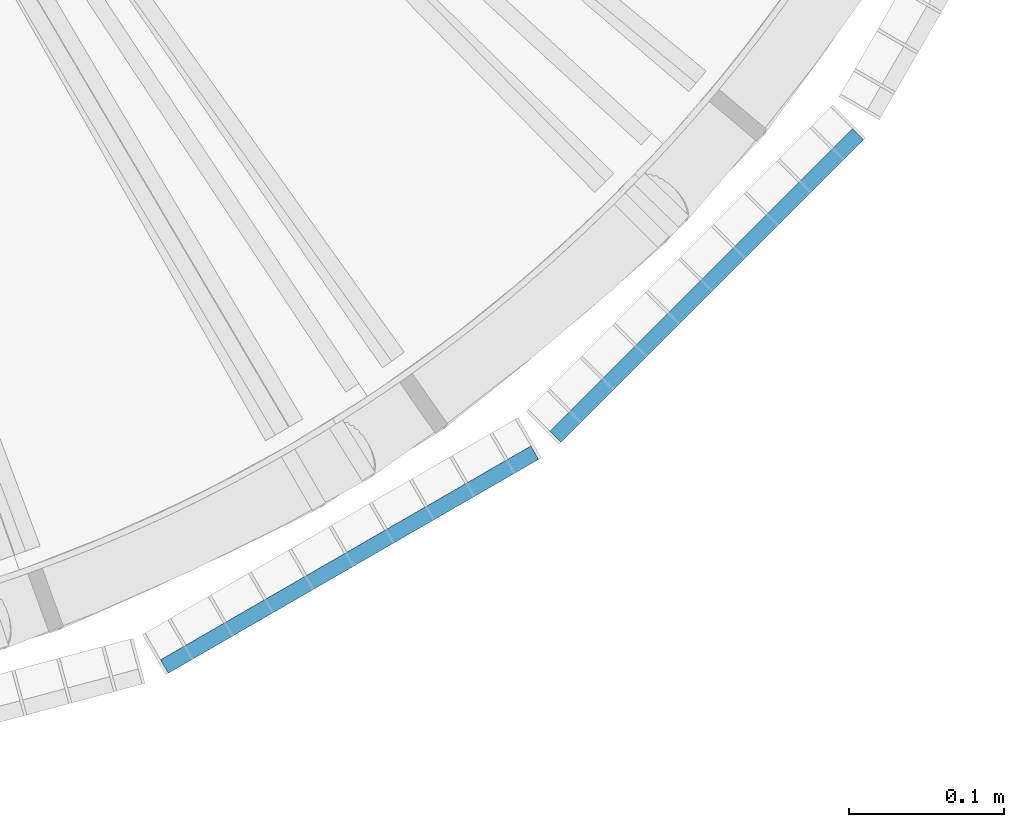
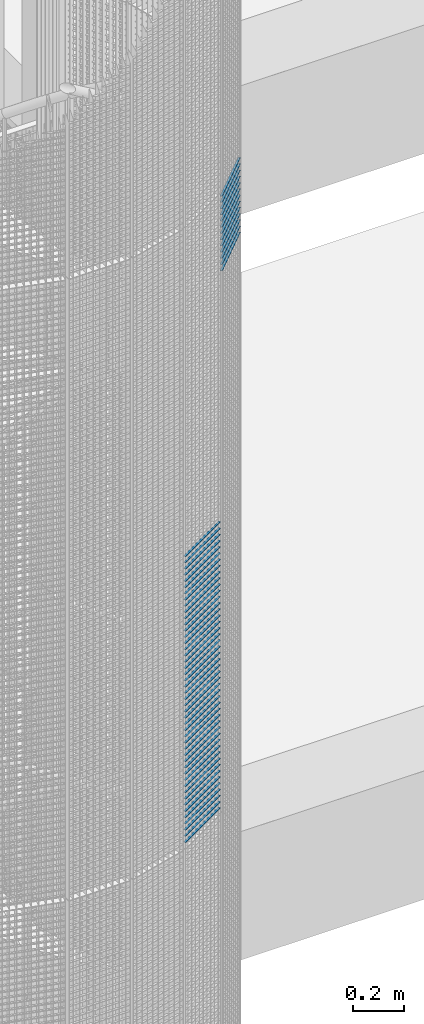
# One storey, part 392 of 1148: 60 beams, 2 elements without a shape of their own.
"""IFC2X3 building model written with IfcOpenShell, lengths in millimetres."""

from ifc_helpers import new_model, si_unit, frame, origin_with_axes, origin_2d_with_axis, place, context, subcontext, project, spatial, rectangle, extrude, material, type_object, element, aggregate, save


model = new_model("IFC2X3")

# Units and contexts
model_context = context("Model", 3, precision=1e-05, world=origin_with_axes())
body_context = subcontext(model_context, "Body", "Model", "MODEL_VIEW")
ifc_project = project(units=[si_unit("LENGTHUNIT", "METRE", prefix="MILLI"), si_unit("AREAUNIT", "SQUARE_METRE"), si_unit("VOLUMEUNIT", "CUBIC_METRE"), si_unit("MASSUNIT", "GRAM", prefix="KILO"), si_unit("TIMEUNIT", "SECOND"), si_unit("PLANEANGLEUNIT", "RADIAN"), si_unit("SOLIDANGLEUNIT", "STERADIAN"), si_unit("THERMODYNAMICTEMPERATUREUNIT", "DEGREE_CELSIUS"), si_unit("LUMINOUSINTENSITYUNIT", "LUMEN")], contexts=[model_context])

# Site, building, storey
site_placement = place(None, origin_with_axes())
site = spatial("IfcSite", under=ifc_project, at=site_placement, Name="Undefined", CompositionType="ELEMENT")
building_placement = place(site_placement, origin_with_axes())
building = spatial("IfcBuilding", under=site, at=building_placement, Name="Undefined", CompositionType="ELEMENT")
storey_placement = place(building_placement, origin_with_axes())
storey = spatial("IfcBuildingStorey", under=building, at=storey_placement, Name="Undefined", CompositionType="ELEMENT", Elevation=0.0)

# Assembly, beams
assembly_1_placement = place(storey_placement, origin_with_axes())
assembly_1 = element("IfcElementAssembly", 1, at=assembly_1_placement, inside=storey, Name="BORDURE", AssemblyPlace="NOTDEFINED", PredefinedType="NOTDEFINED")
ifc_material = material(Name="STEEL/S235JR")
beam_type = type_object("IfcBeamType", Name="PL2*10", PredefinedType="NOTDEFINED")
beam_1_placement = place(assembly_1_placement, frame((22276.2480445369, -895.303964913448, 10410.0), z_axis=(0.499999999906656, -0.866025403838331, 0.0), x_axis=(-0.866025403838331, -0.499999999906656, 0.0)))
beam_1 = element("IfcBeam", 2, at=beam_1_placement, type_object=beam_type, material=ifc_material, Name="ENTRETOISE", context=body_context, shape_type="SweptSolid", body=[
    extrude(rectangle(XDim=2.0, YDim=10.0, at=origin_2d_with_axis()), frame((275.999999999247, 9.09494701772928e-13, 1.53210777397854e-14), z_axis=(-1.0, 0.0, 0.0), x_axis=(0.0, -1.0, 0.0)), (0.0, 0.0, 1.0), 276.0),
])
beam_2_placement = place(assembly_1_placement, frame((22276.2480445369, -895.303964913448, 10380.0), z_axis=(0.499999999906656, -0.866025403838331, 0.0), x_axis=(-0.866025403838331, -0.499999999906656, 0.0)))
beam_2 = element("IfcBeam", 3, at=beam_2_placement, type_object=beam_type, material=ifc_material, Name="ENTRETOISE", context=body_context, shape_type="SweptSolid", body=[
    extrude(rectangle(XDim=2.0, YDim=10.0, at=origin_2d_with_axis()), frame((275.999999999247, 9.09494701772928e-13, 1.53210777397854e-14), z_axis=(-1.0, 0.0, 0.0), x_axis=(0.0, -1.0, 0.0)), (0.0, 0.0, 1.0), 276.0),
])
beam_3_placement = place(assembly_1_placement, frame((22276.2480445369, -895.303964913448, 10350.0), z_axis=(0.499999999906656, -0.866025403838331, 0.0), x_axis=(-0.866025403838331, -0.499999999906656, 0.0)))
beam_3 = element("IfcBeam", 4, at=beam_3_placement, type_object=beam_type, material=ifc_material, Name="ENTRETOISE", context=body_context, shape_type="SweptSolid", body=[
    extrude(rectangle(XDim=2.0, YDim=10.0, at=origin_2d_with_axis()), frame((275.999999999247, 9.09494701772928e-13, 1.53210777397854e-14), z_axis=(-1.0, 0.0, 0.0), x_axis=(0.0, -1.0, 0.0)), (0.0, 0.0, 1.0), 276.0),
])
beam_4_placement = place(assembly_1_placement, frame((22276.2480445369, -895.303964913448, 10320.0), z_axis=(0.499999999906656, -0.866025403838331, 0.0), x_axis=(-0.866025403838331, -0.499999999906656, 0.0)))
beam_4 = element("IfcBeam", 5, at=beam_4_placement, type_object=beam_type, material=ifc_material, Name="ENTRETOISE", context=body_context, shape_type="SweptSolid", body=[
    extrude(rectangle(XDim=2.0, YDim=10.0, at=origin_2d_with_axis()), frame((275.999999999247, 9.09494701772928e-13, 1.53210777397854e-14), z_axis=(-1.0, 0.0, 0.0), x_axis=(0.0, -1.0, 0.0)), (0.0, 0.0, 1.0), 276.0),
])
beam_5_placement = place(assembly_1_placement, frame((22276.2480445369, -895.303964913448, 10290.0), z_axis=(0.499999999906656, -0.866025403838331, 0.0), x_axis=(-0.866025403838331, -0.499999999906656, 0.0)))
beam_5 = element("IfcBeam", 6, at=beam_5_placement, type_object=beam_type, material=ifc_material, Name="ENTRETOISE", context=body_context, shape_type="SweptSolid", body=[
    extrude(rectangle(XDim=2.0, YDim=10.0, at=origin_2d_with_axis()), frame((275.999999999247, 9.09494701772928e-13, 1.53210777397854e-14), z_axis=(-1.0, 0.0, 0.0), x_axis=(0.0, -1.0, 0.0)), (0.0, 0.0, 1.0), 276.0),
])
beam_6_placement = place(assembly_1_placement, frame((22276.2480445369, -895.303964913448, 10260.0), z_axis=(0.499999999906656, -0.866025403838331, 0.0), x_axis=(-0.866025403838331, -0.499999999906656, 0.0)))
beam_6 = element("IfcBeam", 7, at=beam_6_placement, type_object=beam_type, material=ifc_material, Name="ENTRETOISE", context=body_context, shape_type="SweptSolid", body=[
    extrude(rectangle(XDim=2.0, YDim=10.0, at=origin_2d_with_axis()), frame((275.999999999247, 9.09494701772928e-13, 1.53210777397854e-14), z_axis=(-1.0, 0.0, 0.0), x_axis=(0.0, -1.0, 0.0)), (0.0, 0.0, 1.0), 276.0),
])
beam_7_placement = place(assembly_1_placement, frame((22276.2480445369, -895.303964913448, 10230.0), z_axis=(0.499999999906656, -0.866025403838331, 0.0), x_axis=(-0.866025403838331, -0.499999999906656, 0.0)))
beam_7 = element("IfcBeam", 8, at=beam_7_placement, type_object=beam_type, material=ifc_material, Name="ENTRETOISE", context=body_context, shape_type="SweptSolid", body=[
    extrude(rectangle(XDim=2.0, YDim=10.0, at=origin_2d_with_axis()), frame((275.999999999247, 9.09494701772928e-13, 1.53210777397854e-14), z_axis=(-1.0, 0.0, 0.0), x_axis=(0.0, -1.0, 0.0)), (0.0, 0.0, 1.0), 276.0),
])
beam_8_placement = place(assembly_1_placement, frame((22276.2480445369, -895.303964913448, 10200.0), z_axis=(0.499999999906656, -0.866025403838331, 0.0), x_axis=(-0.866025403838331, -0.499999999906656, 0.0)))
beam_8 = element("IfcBeam", 9, at=beam_8_placement, type_object=beam_type, material=ifc_material, Name="ENTRETOISE", context=body_context, shape_type="SweptSolid", body=[
    extrude(rectangle(XDim=2.0, YDim=10.0, at=origin_2d_with_axis()), frame((275.999999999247, 9.09494701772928e-13, 1.53210777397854e-14), z_axis=(-1.0, 0.0, 0.0), x_axis=(0.0, -1.0, 0.0)), (0.0, 0.0, 1.0), 276.0),
])
beam_9_placement = place(assembly_1_placement, frame((22276.2480445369, -895.303964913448, 10170.0), z_axis=(0.499999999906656, -0.866025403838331, 0.0), x_axis=(-0.866025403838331, -0.499999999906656, 0.0)))
beam_9 = element("IfcBeam", 10, at=beam_9_placement, type_object=beam_type, material=ifc_material, Name="ENTRETOISE", context=body_context, shape_type="SweptSolid", body=[
    extrude(rectangle(XDim=2.0, YDim=10.0, at=origin_2d_with_axis()), frame((275.999999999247, 9.09494701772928e-13, 1.53210777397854e-14), z_axis=(-1.0, 0.0, 0.0), x_axis=(0.0, -1.0, 0.0)), (0.0, 0.0, 1.0), 276.0),
])
beam_10_placement = place(assembly_1_placement, frame((22276.2480445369, -895.303964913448, 10140.0), z_axis=(0.499999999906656, -0.866025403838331, 0.0), x_axis=(-0.866025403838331, -0.499999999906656, 0.0)))
beam_10 = element("IfcBeam", 11, at=beam_10_placement, type_object=beam_type, material=ifc_material, Name="ENTRETOISE", context=body_context, shape_type="SweptSolid", body=[
    extrude(rectangle(XDim=2.0, YDim=10.0, at=origin_2d_with_axis()), frame((275.999999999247, 9.09494701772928e-13, 1.53210777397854e-14), z_axis=(-1.0, 0.0, 0.0), x_axis=(0.0, -1.0, 0.0)), (0.0, 0.0, 1.0), 276.0),
])
beam_11_placement = place(assembly_1_placement, frame((22276.2480445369, -895.303964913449, 9720.0), z_axis=(0.499999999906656, -0.866025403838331, 0.0), x_axis=(-0.866025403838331, -0.499999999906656, 0.0)))
beam_11 = element("IfcBeam", 12, at=beam_11_placement, type_object=beam_type, material=ifc_material, Name="ENTRETOISE", context=body_context, shape_type="SweptSolid", body=[
    extrude(rectangle(XDim=2.0, YDim=10.0, at=origin_2d_with_axis()), frame((275.999999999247, 9.09494701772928e-13, 1.53210777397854e-14), z_axis=(-1.0, 0.0, 0.0), x_axis=(0.0, -1.0, 0.0)), (0.0, 0.0, 1.0), 276.0),
])
beam_12_placement = place(assembly_1_placement, frame((22276.2480445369, -895.303964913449, 9690.0), z_axis=(0.499999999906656, -0.866025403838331, 0.0), x_axis=(-0.866025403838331, -0.499999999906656, 0.0)))
beam_12 = element("IfcBeam", 13, at=beam_12_placement, type_object=beam_type, material=ifc_material, Name="ENTRETOISE", context=body_context, shape_type="SweptSolid", body=[
    extrude(rectangle(XDim=2.0, YDim=10.0, at=origin_2d_with_axis()), frame((275.999999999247, 9.09494701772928e-13, 1.53210777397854e-14), z_axis=(-1.0, 0.0, 0.0), x_axis=(0.0, -1.0, 0.0)), (0.0, 0.0, 1.0), 276.0),
])
beam_13_placement = place(assembly_1_placement, frame((22276.2480445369, -895.303964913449, 9750.0), z_axis=(0.499999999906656, -0.866025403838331, 0.0), x_axis=(-0.866025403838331, -0.499999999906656, 0.0)))
beam_13 = element("IfcBeam", 14, at=beam_13_placement, type_object=beam_type, material=ifc_material, Name="ENTRETOISE", context=body_context, shape_type="SweptSolid", body=[
    extrude(rectangle(XDim=2.0, YDim=10.0, at=origin_2d_with_axis()), frame((275.999999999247, 9.09494701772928e-13, 1.53210777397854e-14), z_axis=(-1.0, 0.0, 0.0), x_axis=(0.0, -1.0, 0.0)), (0.0, 0.0, 1.0), 276.0),
])
beam_14_placement = place(assembly_1_placement, frame((22276.2480445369, -895.303964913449, 9660.0), z_axis=(0.499999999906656, -0.866025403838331, 0.0), x_axis=(-0.866025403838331, -0.499999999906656, 0.0)))
beam_14 = element("IfcBeam", 15, at=beam_14_placement, type_object=beam_type, material=ifc_material, Name="ENTRETOISE", context=body_context, shape_type="SweptSolid", body=[
    extrude(rectangle(XDim=2.0, YDim=10.0, at=origin_2d_with_axis()), frame((275.999999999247, 9.09494701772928e-13, 1.53210777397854e-14), z_axis=(-1.0, 0.0, 0.0), x_axis=(0.0, -1.0, 0.0)), (0.0, 0.0, 1.0), 276.0),
])
beam_15_placement = place(assembly_1_placement, frame((22276.2480445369, -895.303964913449, 9630.0), z_axis=(0.499999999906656, -0.866025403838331, 0.0), x_axis=(-0.866025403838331, -0.499999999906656, 0.0)))
beam_15 = element("IfcBeam", 16, at=beam_15_placement, type_object=beam_type, material=ifc_material, Name="ENTRETOISE", context=body_context, shape_type="SweptSolid", body=[
    extrude(rectangle(XDim=2.0, YDim=10.0, at=origin_2d_with_axis()), frame((275.999999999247, 9.09494701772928e-13, 1.53210777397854e-14), z_axis=(-1.0, 0.0, 0.0), x_axis=(0.0, -1.0, 0.0)), (0.0, 0.0, 1.0), 276.0),
])
beam_16_placement = place(assembly_1_placement, frame((22276.2480445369, -895.303964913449, 9780.0), z_axis=(0.499999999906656, -0.866025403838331, 0.0), x_axis=(-0.866025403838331, -0.499999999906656, 0.0)))
beam_16 = element("IfcBeam", 17, at=beam_16_placement, type_object=beam_type, material=ifc_material, Name="ENTRETOISE", context=body_context, shape_type="SweptSolid", body=[
    extrude(rectangle(XDim=2.0, YDim=10.0, at=origin_2d_with_axis()), frame((275.999999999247, 9.09494701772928e-13, 1.53210777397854e-14), z_axis=(-1.0, 0.0, 0.0), x_axis=(0.0, -1.0, 0.0)), (0.0, 0.0, 1.0), 276.0),
])
beam_17_placement = place(assembly_1_placement, frame((22276.2480445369, -895.30396491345, 9600.0), z_axis=(0.499999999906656, -0.866025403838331, 0.0), x_axis=(-0.866025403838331, -0.499999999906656, 0.0)))
beam_17 = element("IfcBeam", 18, at=beam_17_placement, type_object=beam_type, material=ifc_material, Name="ENTRETOISE", context=body_context, shape_type="SweptSolid", body=[
    extrude(rectangle(XDim=2.0, YDim=10.0, at=origin_2d_with_axis()), frame((275.999999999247, 9.09494701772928e-13, 1.53210777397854e-14), z_axis=(-1.0, 0.0, 0.0), x_axis=(0.0, -1.0, 0.0)), (0.0, 0.0, 1.0), 276.0),
])
beam_18_placement = place(assembly_1_placement, frame((22276.2480445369, -895.303964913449, 9810.0), z_axis=(0.499999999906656, -0.866025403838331, 0.0), x_axis=(-0.866025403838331, -0.499999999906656, 0.0)))
beam_18 = element("IfcBeam", 19, at=beam_18_placement, type_object=beam_type, material=ifc_material, Name="ENTRETOISE", context=body_context, shape_type="SweptSolid", body=[
    extrude(rectangle(XDim=2.0, YDim=10.0, at=origin_2d_with_axis()), frame((275.999999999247, 9.09494701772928e-13, 1.53210777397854e-14), z_axis=(-1.0, 0.0, 0.0), x_axis=(0.0, -1.0, 0.0)), (0.0, 0.0, 1.0), 276.0),
])
beam_19_placement = place(assembly_1_placement, frame((22276.2480445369, -895.30396491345, 9570.0), z_axis=(0.499999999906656, -0.866025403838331, 0.0), x_axis=(-0.866025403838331, -0.499999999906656, 0.0)))
beam_19 = element("IfcBeam", 20, at=beam_19_placement, type_object=beam_type, material=ifc_material, Name="ENTRETOISE", context=body_context, shape_type="SweptSolid", body=[
    extrude(rectangle(XDim=2.0, YDim=10.0, at=origin_2d_with_axis()), frame((275.999999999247, 9.09494701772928e-13, 1.53210777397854e-14), z_axis=(-1.0, 0.0, 0.0), x_axis=(0.0, -1.0, 0.0)), (0.0, 0.0, 1.0), 276.0),
])
beam_20_placement = place(assembly_1_placement, frame((22276.2480445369, -895.30396491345, 9540.0), z_axis=(0.499999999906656, -0.866025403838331, 0.0), x_axis=(-0.866025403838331, -0.499999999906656, 0.0)))
beam_20 = element("IfcBeam", 21, at=beam_20_placement, type_object=beam_type, material=ifc_material, Name="ENTRETOISE", context=body_context, shape_type="SweptSolid", body=[
    extrude(rectangle(XDim=2.0, YDim=10.0, at=origin_2d_with_axis()), frame((275.999999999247, 9.09494701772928e-13, 1.53210777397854e-14), z_axis=(-1.0, 0.0, 0.0), x_axis=(0.0, -1.0, 0.0)), (0.0, 0.0, 1.0), 276.0),
])
beam_21_placement = place(assembly_1_placement, frame((22276.2480445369, -895.303964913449, 9840.0), z_axis=(0.499999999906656, -0.866025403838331, 0.0), x_axis=(-0.866025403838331, -0.499999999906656, 0.0)))
beam_21 = element("IfcBeam", 22, at=beam_21_placement, type_object=beam_type, material=ifc_material, Name="ENTRETOISE", context=body_context, shape_type="SweptSolid", body=[
    extrude(rectangle(XDim=2.0, YDim=10.0, at=origin_2d_with_axis()), frame((275.999999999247, 9.09494701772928e-13, 1.53210777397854e-14), z_axis=(-1.0, 0.0, 0.0), x_axis=(0.0, -1.0, 0.0)), (0.0, 0.0, 1.0), 276.0),
])
beam_22_placement = place(assembly_1_placement, frame((22276.2480445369, -895.303964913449, 9510.0), z_axis=(0.499999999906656, -0.866025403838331, 0.0), x_axis=(-0.866025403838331, -0.499999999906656, 0.0)))
beam_22 = element("IfcBeam", 23, at=beam_22_placement, type_object=beam_type, material=ifc_material, Name="ENTRETOISE", context=body_context, shape_type="SweptSolid", body=[
    extrude(rectangle(XDim=2.0, YDim=10.0, at=origin_2d_with_axis()), frame((275.999999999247, 9.09494701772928e-13, 1.53210777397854e-14), z_axis=(-1.0, 0.0, 0.0), x_axis=(0.0, -1.0, 0.0)), (0.0, 0.0, 1.0), 276.0),
])
beam_23_placement = place(assembly_1_placement, frame((22276.2480445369, -895.303964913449, 9480.0), z_axis=(0.499999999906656, -0.866025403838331, 0.0), x_axis=(-0.866025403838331, -0.499999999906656, 0.0)))
beam_23 = element("IfcBeam", 24, at=beam_23_placement, type_object=beam_type, material=ifc_material, Name="ENTRETOISE", context=body_context, shape_type="SweptSolid", body=[
    extrude(rectangle(XDim=2.0, YDim=10.0, at=origin_2d_with_axis()), frame((275.999999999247, 9.09494701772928e-13, 1.53210777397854e-14), z_axis=(-1.0, 0.0, 0.0), x_axis=(0.0, -1.0, 0.0)), (0.0, 0.0, 1.0), 276.0),
])
beam_24_placement = place(assembly_1_placement, frame((22276.2480445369, -895.303964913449, 9870.0), z_axis=(0.499999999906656, -0.866025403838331, 0.0), x_axis=(-0.866025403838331, -0.499999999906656, 0.0)))
beam_24 = element("IfcBeam", 25, at=beam_24_placement, type_object=beam_type, material=ifc_material, Name="ENTRETOISE", context=body_context, shape_type="SweptSolid", body=[
    extrude(rectangle(XDim=2.0, YDim=10.0, at=origin_2d_with_axis()), frame((275.999999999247, 9.09494701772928e-13, 1.53210777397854e-14), z_axis=(-1.0, 0.0, 0.0), x_axis=(0.0, -1.0, 0.0)), (0.0, 0.0, 1.0), 276.0),
])
beam_25_placement = place(assembly_1_placement, frame((22276.2480445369, -895.30396491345, 9450.0), z_axis=(0.499999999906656, -0.866025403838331, 0.0), x_axis=(-0.866025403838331, -0.499999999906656, 0.0)))
beam_25 = element("IfcBeam", 26, at=beam_25_placement, type_object=beam_type, material=ifc_material, Name="ENTRETOISE", context=body_context, shape_type="SweptSolid", body=[
    extrude(rectangle(XDim=2.0, YDim=10.0, at=origin_2d_with_axis()), frame((275.999999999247, 9.09494701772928e-13, 1.53210777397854e-14), z_axis=(-1.0, 0.0, 0.0), x_axis=(0.0, -1.0, 0.0)), (0.0, 0.0, 1.0), 276.0),
])
beam_26_placement = place(assembly_1_placement, frame((22276.2480445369, -895.30396491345, 9420.0), z_axis=(0.499999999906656, -0.866025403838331, 0.0), x_axis=(-0.866025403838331, -0.499999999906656, 0.0)))
beam_26 = element("IfcBeam", 27, at=beam_26_placement, type_object=beam_type, material=ifc_material, Name="ENTRETOISE", context=body_context, shape_type="SweptSolid", body=[
    extrude(rectangle(XDim=2.0, YDim=10.0, at=origin_2d_with_axis()), frame((275.999999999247, 9.09494701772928e-13, 1.53210777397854e-14), z_axis=(-1.0, 0.0, 0.0), x_axis=(0.0, -1.0, 0.0)), (0.0, 0.0, 1.0), 276.0),
])
beam_27_placement = place(assembly_1_placement, frame((22276.2480445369, -895.303964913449, 9900.0), z_axis=(0.499999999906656, -0.866025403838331, 0.0), x_axis=(-0.866025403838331, -0.499999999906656, 0.0)))
beam_27 = element("IfcBeam", 28, at=beam_27_placement, type_object=beam_type, material=ifc_material, Name="ENTRETOISE", context=body_context, shape_type="SweptSolid", body=[
    extrude(rectangle(XDim=2.0, YDim=10.0, at=origin_2d_with_axis()), frame((275.999999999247, 9.09494701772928e-13, 1.53210777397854e-14), z_axis=(-1.0, 0.0, 0.0), x_axis=(0.0, -1.0, 0.0)), (0.0, 0.0, 1.0), 276.0),
])
beam_28_placement = place(assembly_1_placement, frame((22276.2480445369, -895.30396491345, 9390.0), z_axis=(0.499999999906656, -0.866025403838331, 0.0), x_axis=(-0.866025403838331, -0.499999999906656, 0.0)))
beam_28 = element("IfcBeam", 29, at=beam_28_placement, type_object=beam_type, material=ifc_material, Name="ENTRETOISE", context=body_context, shape_type="SweptSolid", body=[
    extrude(rectangle(XDim=2.0, YDim=10.0, at=origin_2d_with_axis()), frame((275.999999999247, 9.09494701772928e-13, 1.53210777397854e-14), z_axis=(-1.0, 0.0, 0.0), x_axis=(0.0, -1.0, 0.0)), (0.0, 0.0, 1.0), 276.0),
])
beam_29_placement = place(assembly_1_placement, frame((22276.2480445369, -895.303964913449, 9930.0), z_axis=(0.499999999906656, -0.866025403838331, 0.0), x_axis=(-0.866025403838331, -0.499999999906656, 0.0)))
beam_29 = element("IfcBeam", 30, at=beam_29_placement, type_object=beam_type, material=ifc_material, Name="ENTRETOISE", context=body_context, shape_type="SweptSolid", body=[
    extrude(rectangle(XDim=2.0, YDim=10.0, at=origin_2d_with_axis()), frame((275.999999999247, 9.09494701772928e-13, 1.53210777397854e-14), z_axis=(-1.0, 0.0, 0.0), x_axis=(0.0, -1.0, 0.0)), (0.0, 0.0, 1.0), 276.0),
])
beam_30_placement = place(assembly_1_placement, frame((22276.2480445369, -895.30396491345, 9360.0), z_axis=(0.499999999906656, -0.866025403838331, 0.0), x_axis=(-0.866025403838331, -0.499999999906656, 0.0)))
beam_30 = element("IfcBeam", 31, at=beam_30_placement, type_object=beam_type, material=ifc_material, Name="ENTRETOISE", context=body_context, shape_type="SweptSolid", body=[
    extrude(rectangle(XDim=2.0, YDim=10.0, at=origin_2d_with_axis()), frame((275.999999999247, 9.09494701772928e-13, 1.53210777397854e-14), z_axis=(-1.0, 0.0, 0.0), x_axis=(0.0, -1.0, 0.0)), (0.0, 0.0, 1.0), 276.0),
])
beam_31_placement = place(assembly_1_placement, frame((22276.2480445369, -895.30396491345, 9330.0), z_axis=(0.499999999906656, -0.866025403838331, 0.0), x_axis=(-0.866025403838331, -0.499999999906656, 0.0)))
beam_31 = element("IfcBeam", 32, at=beam_31_placement, type_object=beam_type, material=ifc_material, Name="ENTRETOISE", context=body_context, shape_type="SweptSolid", body=[
    extrude(rectangle(XDim=2.0, YDim=10.0, at=origin_2d_with_axis()), frame((275.999999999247, 9.09494701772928e-13, 1.53210777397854e-14), z_axis=(-1.0, 0.0, 0.0), x_axis=(0.0, -1.0, 0.0)), (0.0, 0.0, 1.0), 276.0),
])
beam_32_placement = place(assembly_1_placement, frame((22276.2480445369, -895.303964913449, 9960.0), z_axis=(0.499999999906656, -0.866025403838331, 0.0), x_axis=(-0.866025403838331, -0.499999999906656, 0.0)))
beam_32 = element("IfcBeam", 33, at=beam_32_placement, type_object=beam_type, material=ifc_material, Name="ENTRETOISE", context=body_context, shape_type="SweptSolid", body=[
    extrude(rectangle(XDim=2.0, YDim=10.0, at=origin_2d_with_axis()), frame((275.999999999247, 9.09494701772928e-13, 1.53210777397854e-14), z_axis=(-1.0, 0.0, 0.0), x_axis=(0.0, -1.0, 0.0)), (0.0, 0.0, 1.0), 276.0),
])
beam_33_placement = place(assembly_1_placement, frame((22276.2480445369, -895.30396491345, 9300.0), z_axis=(0.499999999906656, -0.866025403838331, 0.0), x_axis=(-0.866025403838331, -0.499999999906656, 0.0)))
beam_33 = element("IfcBeam", 34, at=beam_33_placement, type_object=beam_type, material=ifc_material, Name="ENTRETOISE", context=body_context, shape_type="SweptSolid", body=[
    extrude(rectangle(XDim=2.0, YDim=10.0, at=origin_2d_with_axis()), frame((275.999999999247, 9.09494701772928e-13, 1.53210777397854e-14), z_axis=(-1.0, 0.0, 0.0), x_axis=(0.0, -1.0, 0.0)), (0.0, 0.0, 1.0), 276.0),
])
beam_34_placement = place(assembly_1_placement, frame((22276.2480445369, -895.30396491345, 9270.0), z_axis=(0.499999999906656, -0.866025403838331, 0.0), x_axis=(-0.866025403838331, -0.499999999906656, 0.0)))
beam_34 = element("IfcBeam", 35, at=beam_34_placement, type_object=beam_type, material=ifc_material, Name="ENTRETOISE", context=body_context, shape_type="SweptSolid", body=[
    extrude(rectangle(XDim=2.0, YDim=10.0, at=origin_2d_with_axis()), frame((275.999999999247, 9.09494701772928e-13, 1.53210777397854e-14), z_axis=(-1.0, 0.0, 0.0), x_axis=(0.0, -1.0, 0.0)), (0.0, 0.0, 1.0), 276.0),
])
beam_35_placement = place(assembly_1_placement, frame((22276.2480445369, -895.303964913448, 9990.0), z_axis=(0.499999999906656, -0.866025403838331, 0.0), x_axis=(-0.866025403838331, -0.499999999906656, 0.0)))
beam_35 = element("IfcBeam", 36, at=beam_35_placement, type_object=beam_type, material=ifc_material, Name="ENTRETOISE", context=body_context, shape_type="SweptSolid", body=[
    extrude(rectangle(XDim=2.0, YDim=10.0, at=origin_2d_with_axis()), frame((275.999999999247, 9.09494701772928e-13, 1.53210777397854e-14), z_axis=(-1.0, 0.0, 0.0), x_axis=(0.0, -1.0, 0.0)), (0.0, 0.0, 1.0), 276.0),
])
beam_36_placement = place(assembly_1_placement, frame((22276.2480445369, -895.30396491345, 9240.0), z_axis=(0.499999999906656, -0.866025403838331, 0.0), x_axis=(-0.866025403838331, -0.499999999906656, 0.0)))
beam_36 = element("IfcBeam", 37, at=beam_36_placement, type_object=beam_type, material=ifc_material, Name="ENTRETOISE", context=body_context, shape_type="SweptSolid", body=[
    extrude(rectangle(XDim=2.0, YDim=10.0, at=origin_2d_with_axis()), frame((275.999999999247, 9.09494701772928e-13, 1.53210777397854e-14), z_axis=(-1.0, 0.0, 0.0), x_axis=(0.0, -1.0, 0.0)), (0.0, 0.0, 1.0), 276.0),
])
beam_37_placement = place(assembly_1_placement, frame((22276.2480445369, -895.303964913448, 10020.0), z_axis=(0.499999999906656, -0.866025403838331, 0.0), x_axis=(-0.866025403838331, -0.499999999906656, 0.0)))
beam_37 = element("IfcBeam", 38, at=beam_37_placement, type_object=beam_type, material=ifc_material, Name="ENTRETOISE", context=body_context, shape_type="SweptSolid", body=[
    extrude(rectangle(XDim=2.0, YDim=10.0, at=origin_2d_with_axis()), frame((275.999999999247, 9.09494701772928e-13, 1.53210777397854e-14), z_axis=(-1.0, 0.0, 0.0), x_axis=(0.0, -1.0, 0.0)), (0.0, 0.0, 1.0), 276.0),
])
beam_38_placement = place(assembly_1_placement, frame((22276.2480445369, -895.30396491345, 9210.0), z_axis=(0.499999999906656, -0.866025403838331, 0.0), x_axis=(-0.866025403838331, -0.499999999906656, 0.0)))
beam_38 = element("IfcBeam", 39, at=beam_38_placement, type_object=beam_type, material=ifc_material, Name="ENTRETOISE", context=body_context, shape_type="SweptSolid", body=[
    extrude(rectangle(XDim=2.0, YDim=10.0, at=origin_2d_with_axis()), frame((275.999999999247, 9.09494701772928e-13, 1.53210777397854e-14), z_axis=(-1.0, 0.0, 0.0), x_axis=(0.0, -1.0, 0.0)), (0.0, 0.0, 1.0), 276.0),
])
beam_39_placement = place(assembly_1_placement, frame((22276.2480445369, -895.30396491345, 9180.0), z_axis=(0.499999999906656, -0.866025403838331, 0.0), x_axis=(-0.866025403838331, -0.499999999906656, 0.0)))
beam_39 = element("IfcBeam", 40, at=beam_39_placement, type_object=beam_type, material=ifc_material, Name="ENTRETOISE", context=body_context, shape_type="SweptSolid", body=[
    extrude(rectangle(XDim=2.0, YDim=10.0, at=origin_2d_with_axis()), frame((275.999999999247, 9.09494701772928e-13, 1.53210777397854e-14), z_axis=(-1.0, 0.0, 0.0), x_axis=(0.0, -1.0, 0.0)), (0.0, 0.0, 1.0), 276.0),
])
beam_40_placement = place(assembly_1_placement, frame((22276.2480445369, -895.303964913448, 10050.0), z_axis=(0.499999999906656, -0.866025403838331, 0.0), x_axis=(-0.866025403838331, -0.499999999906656, 0.0)))
beam_40 = element("IfcBeam", 41, at=beam_40_placement, type_object=beam_type, material=ifc_material, Name="ENTRETOISE", context=body_context, shape_type="SweptSolid", body=[
    extrude(rectangle(XDim=2.0, YDim=10.0, at=origin_2d_with_axis()), frame((275.999999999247, 9.09494701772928e-13, 1.53210777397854e-14), z_axis=(-1.0, 0.0, 0.0), x_axis=(0.0, -1.0, 0.0)), (0.0, 0.0, 1.0), 276.0),
])
beam_41_placement = place(assembly_1_placement, frame((22276.2480445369, -895.30396491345, 9150.0), z_axis=(0.499999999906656, -0.866025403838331, 0.0), x_axis=(-0.866025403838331, -0.499999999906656, 0.0)))
beam_41 = element("IfcBeam", 42, at=beam_41_placement, type_object=beam_type, material=ifc_material, Name="ENTRETOISE", context=body_context, shape_type="SweptSolid", body=[
    extrude(rectangle(XDim=2.0, YDim=10.0, at=origin_2d_with_axis()), frame((275.999999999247, 9.09494701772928e-13, 1.53210777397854e-14), z_axis=(-1.0, 0.0, 0.0), x_axis=(0.0, -1.0, 0.0)), (0.0, 0.0, 1.0), 276.0),
])
beam_42_placement = place(assembly_1_placement, frame((22276.2480445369, -895.30396491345, 9120.0), z_axis=(0.499999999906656, -0.866025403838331, 0.0), x_axis=(-0.866025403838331, -0.499999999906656, 0.0)))
beam_42 = element("IfcBeam", 43, at=beam_42_placement, type_object=beam_type, material=ifc_material, Name="ENTRETOISE", context=body_context, shape_type="SweptSolid", body=[
    extrude(rectangle(XDim=2.0, YDim=10.0, at=origin_2d_with_axis()), frame((275.999999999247, 9.09494701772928e-13, 1.53210777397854e-14), z_axis=(-1.0, 0.0, 0.0), x_axis=(0.0, -1.0, 0.0)), (0.0, 0.0, 1.0), 276.0),
])
beam_43_placement = place(assembly_1_placement, frame((22276.2480445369, -895.303964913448, 10080.0), z_axis=(0.499999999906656, -0.866025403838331, 0.0), x_axis=(-0.866025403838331, -0.499999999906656, 0.0)))
beam_43 = element("IfcBeam", 44, at=beam_43_placement, type_object=beam_type, material=ifc_material, Name="ENTRETOISE", context=body_context, shape_type="SweptSolid", body=[
    extrude(rectangle(XDim=2.0, YDim=10.0, at=origin_2d_with_axis()), frame((275.999999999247, 9.09494701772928e-13, 1.53210777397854e-14), z_axis=(-1.0, 0.0, 0.0), x_axis=(0.0, -1.0, 0.0)), (0.0, 0.0, 1.0), 276.0),
])
beam_44_placement = place(assembly_1_placement, frame((22276.2480445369, -895.30396491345, 9090.0), z_axis=(0.499999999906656, -0.866025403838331, 0.0), x_axis=(-0.866025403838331, -0.499999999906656, 0.0)))
beam_44 = element("IfcBeam", 45, at=beam_44_placement, type_object=beam_type, material=ifc_material, Name="ENTRETOISE", context=body_context, shape_type="SweptSolid", body=[
    extrude(rectangle(XDim=2.0, YDim=10.0, at=origin_2d_with_axis()), frame((275.999999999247, 9.09494701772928e-13, 1.53210777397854e-14), z_axis=(-1.0, 0.0, 0.0), x_axis=(0.0, -1.0, 0.0)), (0.0, 0.0, 1.0), 276.0),
])
beam_45_placement = place(assembly_1_placement, frame((22276.2480445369, -895.30396491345, 9060.0), z_axis=(0.499999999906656, -0.866025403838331, 0.0), x_axis=(-0.866025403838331, -0.499999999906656, 0.0)))
beam_45 = element("IfcBeam", 46, at=beam_45_placement, type_object=beam_type, material=ifc_material, Name="ENTRETOISE", context=body_context, shape_type="SweptSolid", body=[
    extrude(rectangle(XDim=2.0, YDim=10.0, at=origin_2d_with_axis()), frame((275.999999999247, 9.09494701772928e-13, 1.53210777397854e-14), z_axis=(-1.0, 0.0, 0.0), x_axis=(0.0, -1.0, 0.0)), (0.0, 0.0, 1.0), 276.0),
])
beam_46_placement = place(assembly_1_placement, frame((22276.2480445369, -895.303964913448, 10110.0), z_axis=(0.499999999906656, -0.866025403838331, 0.0), x_axis=(-0.866025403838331, -0.499999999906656, 0.0)))
beam_46 = element("IfcBeam", 47, at=beam_46_placement, type_object=beam_type, material=ifc_material, Name="ENTRETOISE", context=body_context, shape_type="SweptSolid", body=[
    extrude(rectangle(XDim=2.0, YDim=10.0, at=origin_2d_with_axis()), frame((275.999999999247, 9.09494701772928e-13, 1.53210777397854e-14), z_axis=(-1.0, 0.0, 0.0), x_axis=(0.0, -1.0, 0.0)), (0.0, 0.0, 1.0), 276.0),
])
beam_47_placement = place(assembly_1_placement, frame((22276.2480445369, -895.30396491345, 9030.0), z_axis=(0.499999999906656, -0.866025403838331, 0.0), x_axis=(-0.866025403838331, -0.499999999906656, 0.0)))
beam_47 = element("IfcBeam", 48, at=beam_47_placement, type_object=beam_type, material=ifc_material, Name="ENTRETOISE", context=body_context, shape_type="SweptSolid", body=[
    extrude(rectangle(XDim=2.0, YDim=10.0, at=origin_2d_with_axis()), frame((275.999999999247, 9.09494701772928e-13, 1.53210777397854e-14), z_axis=(-1.0, 0.0, 0.0), x_axis=(0.0, -1.0, 0.0)), (0.0, 0.0, 1.0), 276.0),
])
aggregate(assembly_1, [beam_1, beam_2, beam_3, beam_4, beam_5, beam_6, beam_7, beam_8, beam_9, beam_10, beam_11, beam_12, beam_13, beam_14, beam_15, beam_16, beam_17, beam_18, beam_19, beam_20, beam_21, beam_22, beam_23, beam_24, beam_25, beam_26, beam_27, beam_28, beam_29, beam_30, beam_31, beam_32, beam_33, beam_34, beam_35, beam_36, beam_37, beam_38, beam_39, beam_40, beam_41, beam_42, beam_43, beam_44, beam_45, beam_46, beam_47])

assembly_2_placement = place(storey_placement, origin_with_axes())
assembly_2 = element("IfcElementAssembly", 49, at=assembly_2_placement, inside=storey, Name="BORDURE", AssemblyPlace="NOTDEFINED", PredefinedType="NOTDEFINED")
beam_48_placement = place(assembly_2_placement, frame((22484.9271684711, -689.771348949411, 11970.0), z_axis=(0.707106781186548, -0.707106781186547, 0.0), x_axis=(-0.70710678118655, -0.707106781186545, 0.0)))
beam_48 = element("IfcBeam", 50, at=beam_48_placement, type_object=beam_type, material=ifc_material, Name="ENTRETOISE", context=body_context, shape_type="SweptSolid", body=[
    extrude(rectangle(XDim=2.0, YDim=10.0, at=origin_2d_with_axis()), frame((275.999999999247, 9.09494701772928e-13, 1.53210777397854e-14), z_axis=(-1.0, 0.0, 0.0), x_axis=(0.0, -1.0, 0.0)), (0.0, 0.0, 1.0), 276.0),
])
beam_49_placement = place(assembly_2_placement, frame((22484.9271684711, -689.771348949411, 11940.0), z_axis=(0.707106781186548, -0.707106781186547, 0.0), x_axis=(-0.70710678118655, -0.707106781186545, 0.0)))
beam_49 = element("IfcBeam", 51, at=beam_49_placement, type_object=beam_type, material=ifc_material, Name="ENTRETOISE", context=body_context, shape_type="SweptSolid", body=[
    extrude(rectangle(XDim=2.0, YDim=10.0, at=origin_2d_with_axis()), frame((275.999999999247, 9.09494701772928e-13, 1.53210777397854e-14), z_axis=(-1.0, 0.0, 0.0), x_axis=(0.0, -1.0, 0.0)), (0.0, 0.0, 1.0), 276.0),
])
beam_50_placement = place(assembly_2_placement, frame((22484.9271684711, -689.771348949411, 11910.0), z_axis=(0.707106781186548, -0.707106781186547, 0.0), x_axis=(-0.70710678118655, -0.707106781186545, 0.0)))
beam_50 = element("IfcBeam", 52, at=beam_50_placement, type_object=beam_type, material=ifc_material, Name="ENTRETOISE", context=body_context, shape_type="SweptSolid", body=[
    extrude(rectangle(XDim=2.0, YDim=10.0, at=origin_2d_with_axis()), frame((275.999999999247, 9.09494701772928e-13, 1.53210777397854e-14), z_axis=(-1.0, 0.0, 0.0), x_axis=(0.0, -1.0, 0.0)), (0.0, 0.0, 1.0), 276.0),
])
beam_51_placement = place(assembly_2_placement, frame((22484.9271684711, -689.771348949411, 11880.0), z_axis=(0.707106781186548, -0.707106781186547, 0.0), x_axis=(-0.70710678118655, -0.707106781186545, 0.0)))
beam_51 = element("IfcBeam", 53, at=beam_51_placement, type_object=beam_type, material=ifc_material, Name="ENTRETOISE", context=body_context, shape_type="SweptSolid", body=[
    extrude(rectangle(XDim=2.0, YDim=10.0, at=origin_2d_with_axis()), frame((275.999999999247, 9.09494701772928e-13, 1.53210777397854e-14), z_axis=(-1.0, 0.0, 0.0), x_axis=(0.0, -1.0, 0.0)), (0.0, 0.0, 1.0), 276.0),
])
beam_52_placement = place(assembly_2_placement, frame((22484.9271684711, -689.771348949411, 11850.0), z_axis=(0.707106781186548, -0.707106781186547, 0.0), x_axis=(-0.70710678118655, -0.707106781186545, 0.0)))
beam_52 = element("IfcBeam", 54, at=beam_52_placement, type_object=beam_type, material=ifc_material, Name="ENTRETOISE", context=body_context, shape_type="SweptSolid", body=[
    extrude(rectangle(XDim=2.0, YDim=10.0, at=origin_2d_with_axis()), frame((275.999999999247, 9.09494701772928e-13, 1.53210777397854e-14), z_axis=(-1.0, 0.0, 0.0), x_axis=(0.0, -1.0, 0.0)), (0.0, 0.0, 1.0), 276.0),
])
beam_53_placement = place(assembly_2_placement, frame((22484.9271684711, -689.771348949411, 11820.0), z_axis=(0.707106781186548, -0.707106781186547, 0.0), x_axis=(-0.70710678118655, -0.707106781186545, 0.0)))
beam_53 = element("IfcBeam", 55, at=beam_53_placement, type_object=beam_type, material=ifc_material, Name="ENTRETOISE", context=body_context, shape_type="SweptSolid", body=[
    extrude(rectangle(XDim=2.0, YDim=10.0, at=origin_2d_with_axis()), frame((275.999999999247, 9.09494701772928e-13, 1.53210777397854e-14), z_axis=(-1.0, 0.0, 0.0), x_axis=(0.0, -1.0, 0.0)), (0.0, 0.0, 1.0), 276.0),
])
beam_54_placement = place(assembly_2_placement, frame((22484.9271684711, -689.771348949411, 11790.0), z_axis=(0.707106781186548, -0.707106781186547, 0.0), x_axis=(-0.70710678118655, -0.707106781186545, 0.0)))
beam_54 = element("IfcBeam", 56, at=beam_54_placement, type_object=beam_type, material=ifc_material, Name="ENTRETOISE", context=body_context, shape_type="SweptSolid", body=[
    extrude(rectangle(XDim=2.0, YDim=10.0, at=origin_2d_with_axis()), frame((275.999999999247, 9.09494701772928e-13, 1.53210777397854e-14), z_axis=(-1.0, 0.0, 0.0), x_axis=(0.0, -1.0, 0.0)), (0.0, 0.0, 1.0), 276.0),
])
beam_55_placement = place(assembly_2_placement, frame((22484.9271684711, -689.771348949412, 11760.0), z_axis=(0.707106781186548, -0.707106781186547, 0.0), x_axis=(-0.70710678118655, -0.707106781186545, 0.0)))
beam_55 = element("IfcBeam", 57, at=beam_55_placement, type_object=beam_type, material=ifc_material, Name="ENTRETOISE", context=body_context, shape_type="SweptSolid", body=[
    extrude(rectangle(XDim=2.0, YDim=10.0, at=origin_2d_with_axis()), frame((275.999999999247, 9.09494701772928e-13, 1.53210777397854e-14), z_axis=(-1.0, 0.0, 0.0), x_axis=(0.0, -1.0, 0.0)), (0.0, 0.0, 1.0), 276.0),
])
beam_56_placement = place(assembly_2_placement, frame((22484.9271684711, -689.771348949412, 11730.0), z_axis=(0.707106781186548, -0.707106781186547, 0.0), x_axis=(-0.70710678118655, -0.707106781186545, 0.0)))
beam_56 = element("IfcBeam", 58, at=beam_56_placement, type_object=beam_type, material=ifc_material, Name="ENTRETOISE", context=body_context, shape_type="SweptSolid", body=[
    extrude(rectangle(XDim=2.0, YDim=10.0, at=origin_2d_with_axis()), frame((275.999999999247, 9.09494701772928e-13, 1.53210777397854e-14), z_axis=(-1.0, 0.0, 0.0), x_axis=(0.0, -1.0, 0.0)), (0.0, 0.0, 1.0), 276.0),
])
beam_57_placement = place(assembly_2_placement, frame((22484.9271684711, -689.771348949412, 11700.0), z_axis=(0.707106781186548, -0.707106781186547, 0.0), x_axis=(-0.70710678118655, -0.707106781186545, 0.0)))
beam_57 = element("IfcBeam", 59, at=beam_57_placement, type_object=beam_type, material=ifc_material, Name="ENTRETOISE", context=body_context, shape_type="SweptSolid", body=[
    extrude(rectangle(XDim=2.0, YDim=10.0, at=origin_2d_with_axis()), frame((275.999999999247, 9.09494701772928e-13, 1.53210777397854e-14), z_axis=(-1.0, 0.0, 0.0), x_axis=(0.0, -1.0, 0.0)), (0.0, 0.0, 1.0), 276.0),
])
beam_58_placement = place(assembly_2_placement, frame((22484.9271684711, -689.771348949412, 11670.0), z_axis=(0.707106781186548, -0.707106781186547, 0.0), x_axis=(-0.70710678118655, -0.707106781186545, 0.0)))
beam_58 = element("IfcBeam", 60, at=beam_58_placement, type_object=beam_type, material=ifc_material, Name="ENTRETOISE", context=body_context, shape_type="SweptSolid", body=[
    extrude(rectangle(XDim=2.0, YDim=10.0, at=origin_2d_with_axis()), frame((275.999999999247, 9.09494701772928e-13, 1.53210777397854e-14), z_axis=(-1.0, 0.0, 0.0), x_axis=(0.0, -1.0, 0.0)), (0.0, 0.0, 1.0), 276.0),
])
beam_59_placement = place(assembly_2_placement, frame((22484.9271684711, -689.771348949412, 11640.0), z_axis=(0.707106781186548, -0.707106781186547, 0.0), x_axis=(-0.70710678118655, -0.707106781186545, 0.0)))
beam_59 = element("IfcBeam", 61, at=beam_59_placement, type_object=beam_type, material=ifc_material, Name="ENTRETOISE", context=body_context, shape_type="SweptSolid", body=[
    extrude(rectangle(XDim=2.0, YDim=10.0, at=origin_2d_with_axis()), frame((275.999999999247, 9.09494701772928e-13, 1.53210777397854e-14), z_axis=(-1.0, 0.0, 0.0), x_axis=(0.0, -1.0, 0.0)), (0.0, 0.0, 1.0), 276.0),
])
beam_60_placement = place(assembly_2_placement, frame((22484.9271684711, -689.771348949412, 11610.0), z_axis=(0.707106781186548, -0.707106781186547, 0.0), x_axis=(-0.70710678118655, -0.707106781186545, 0.0)))
beam_60 = element("IfcBeam", 62, at=beam_60_placement, type_object=beam_type, material=ifc_material, Name="ENTRETOISE", context=body_context, shape_type="SweptSolid", body=[
    extrude(rectangle(XDim=2.0, YDim=10.0, at=origin_2d_with_axis()), frame((275.999999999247, 9.09494701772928e-13, 1.53210777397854e-14), z_axis=(-1.0, 0.0, 0.0), x_axis=(0.0, -1.0, 0.0)), (0.0, 0.0, 1.0), 276.0),
])
aggregate(assembly_2, [beam_48, beam_49, beam_50, beam_51, beam_52, beam_53, beam_54, beam_55, beam_56, beam_57, beam_58, beam_59, beam_60])

save(model, "model.ifc")
